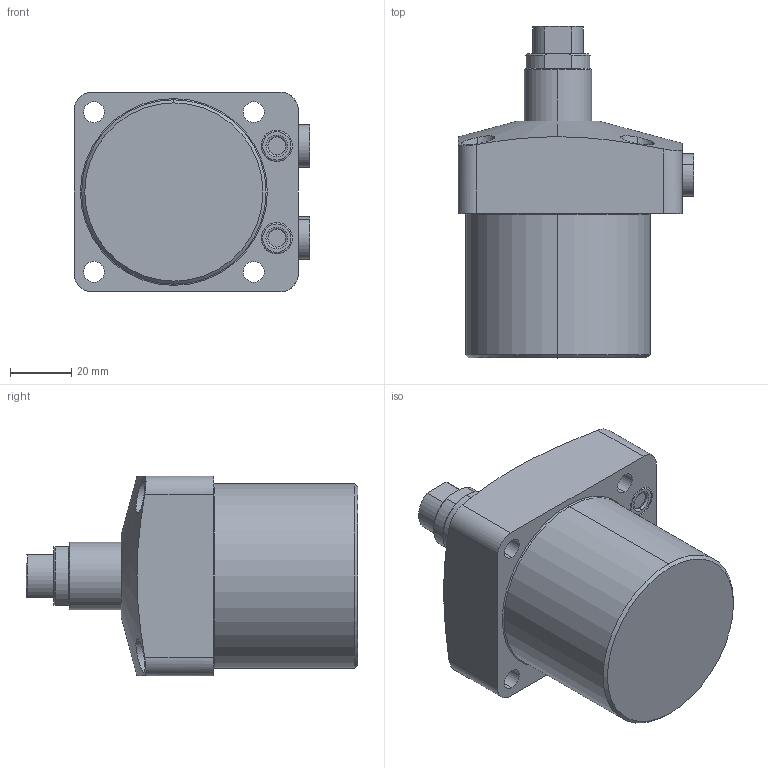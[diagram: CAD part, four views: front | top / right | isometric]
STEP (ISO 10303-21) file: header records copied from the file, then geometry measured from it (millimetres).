
FILE_DESCRIPTION(/* description */ (''),/* implementation_level */ '2;1');
FILE_NAME(/* name */ 'FSS16.stp',/* time_stamp */ '2022-11-16T14:02:31+08:00',/* author */ (''),/* organization */ (''),/* preprocessor_version */ 'ST-DEVELOPER v16.7',/* originating_system */ 'SIEMENS PLM Software NX 12.0',/* authorisation */ '');
FILE_SCHEMA (('AP203_CONFIGURATION_CONTROLLED_3D_DESIGN_OF_MECHANICAL_PARTS_AND_ASSEMBLIES_MIM_LF { 1 0 10303 403 2 1 2}'));
Length unit declared in the file: millimetre
Products named in the file (5): FSS16-03; FSS16-02; FSS16-04; FSS16-01; CST16_step
Assembly tree (5 placements, depth 2):
  CST16_step
    FSS16-01
    FSS16-04  x2
    FSS16-02
    FSS16-03
Bounding box: 76.8 x 108 x 65 mm (x, y, z)
Volume: 254963.8 mm3; surface area: 34660.6 mm2
Topology: 5 solids, 7 shells, 196 faces, 420 edges, 259 vertices
Faces by surface type: cylinder 80, plane 56, torus 30, cone 28, sphere 2
Entity records: 5510 total; most frequent: DIRECTION 936, CARTESIAN_POINT 930, ORIENTED_EDGE 756, AXIS2_PLACEMENT_3D 402, EDGE_CURVE 378, VERTEX_POINT 233, CIRCLE 220, EDGE_LOOP 209
